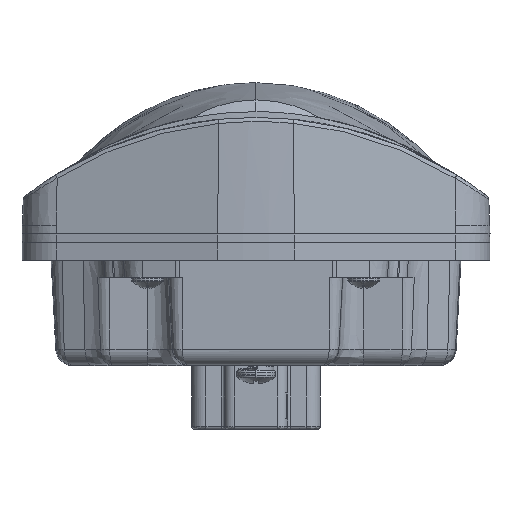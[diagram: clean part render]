
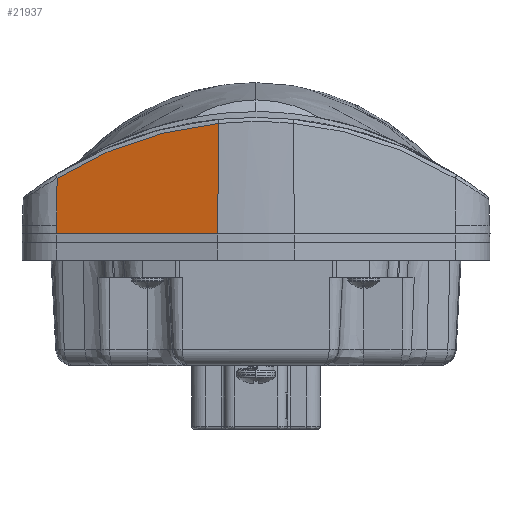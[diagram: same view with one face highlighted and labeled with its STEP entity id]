
A CAD part, front view. The second image highlights one B-rep face of the part: STEP entity #21937.
In plain terms, the highlighted planar face has unit normal (-0.242, -0.97, 0.035).
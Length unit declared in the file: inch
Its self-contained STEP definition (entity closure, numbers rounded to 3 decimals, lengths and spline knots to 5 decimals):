
#940 = CARTESIAN_POINT ( 'NONE',  ( -1.06879, -2.17543, 0.49437 ) ) ;
#1234 = VERTEX_POINT ( 'NONE', #25734 ) ;
#2233 = CARTESIAN_POINT ( 'NONE',  ( -0.69388, -2.26427, 0.63018 ) ) ;
#2349 = B_SPLINE_CURVE_WITH_KNOTS ( 'NONE', 3,
 ( #8865, #68769, #39155, #101686 ),
 .UNSPECIFIED., .F., .F.,
 ( 4, 4 ),
 ( 0., 0.01953 ),
 .UNSPECIFIED. ) ;
#8498 = ORIENTED_EDGE ( 'NONE', *, *, #106932, .F. ) ;
#8523 = ORIENTED_EDGE ( 'NONE', *, *, #91245, .F. ) ;
#8865 = CARTESIAN_POINT ( 'NONE',  ( -0.26144, -2.36957, 0.70835 ) ) ;
#10360 = CARTESIAN_POINT ( 'NONE',  ( -1.1524, -2.15594, 0.45516 ) ) ;
#12244 = DIRECTION ( 'NONE',  ( -0.97, 0.243, 0. ) ) ;
#13692 = LINE ( 'NONE', #107813, #65631 ) ;
#15079 = VERTEX_POINT ( 'NONE', #19647 ) ;
#19115 = CARTESIAN_POINT ( 'NONE',  ( -1.10901, -2.16604, 0.47595 ) ) ;
#19647 = CARTESIAN_POINT ( 'NONE',  ( -0.26582, -2.39613, -0.06 ) ) ;
#21723 = CARTESIAN_POINT ( 'NONE',  ( -0.99814, -2.192, 0.52473 ) ) ;
#21937 = ADVANCED_FACE ( 'NONE', ( #22293 ), #75417, .F. ) ;
#22293 = FACE_OUTER_BOUND ( 'NONE', #25933, .T. ) ;
#23636 = CARTESIAN_POINT ( 'NONE',  ( 0.77295, -2.65366, 0. ) ) ;
#24385 = CARTESIAN_POINT ( 'NONE',  ( -0.85447, -2.22596, 0.57906 ) ) ;
#25066 = CARTESIAN_POINT ( 'NONE',  ( -0.88931, -2.21769, 0.56677 ) ) ;
#25734 = CARTESIAN_POINT ( 'NONE',  ( -1.38606, -2.11391, 0. ) ) ;
#25933 = EDGE_LOOP ( 'NONE', ( #114499, #93777, #8498, #42972, #8523 ) ) ;
#26187 = VERTEX_POINT ( 'NONE', #80361 ) ;
#31851 = CARTESIAN_POINT ( 'NONE',  ( -1.0318, -2.1841, 0.51057 ) ) ;
#33164 = CARTESIAN_POINT ( 'NONE',  ( -0.87485, -2.22112, 0.57194 ) ) ;
#33838 = CARTESIAN_POINT ( 'NONE',  ( -0.91769, -2.21097, 0.55634 ) ) ;
#34485 = CARTESIAN_POINT ( 'NONE',  ( -0.78713, -2.24196, 0.60222 ) ) ;
#39155 = CARTESIAN_POINT ( 'NONE',  ( -0.26436, -2.38728, 0.19612 ) ) ;
#42602 = CARTESIAN_POINT ( 'NONE',  ( -0.41661, -2.33147, 0.68895 ) ) ;
#42972 = ORIENTED_EDGE ( 'NONE', *, *, #116640, .F. ) ;
#43236 = CARTESIAN_POINT ( 'NONE',  ( -0.85991, -2.22467, 0.57718 ) ) ;
#44579 = CARTESIAN_POINT ( 'NONE',  ( -0.92893, -2.20832, 0.55211 ) ) ;
#46071 = AXIS2_PLACEMENT_3D ( 'NONE', #23636, #86146, #12244 ) ;
#47254 = VERTEX_POINT ( 'NONE', #48446 ) ;
#48446 = CARTESIAN_POINT ( 'NONE',  ( -1.3833, -2.10284, 0.3268 ) ) ;
#50729 = CARTESIAN_POINT ( 'NONE',  ( -1.35526, -2.10922, 0.34416 ) ) ;
#50963 = CARTESIAN_POINT ( 'NONE',  ( 0.77245, -2.65569, -0.06 ) ) ;
#52729 = CARTESIAN_POINT ( 'NONE',  ( -0.95402, -2.20239, 0.54245 ) ) ;
#54029 = CARTESIAN_POINT ( 'NONE',  ( -0.26981, -2.3675, 0.70751 ) ) ;
#54701 = CARTESIAN_POINT ( 'NONE',  ( -0.86399, -2.2237, 0.57576 ) ) ;
#55376 = CARTESIAN_POINT ( 'NONE',  ( -0.49374, -2.31267, 0.67553 ) ) ;
#59639 = CARTESIAN_POINT ( 'NONE',  ( -1.38606, -2.11391, 0. ) ) ;
#60173 = CARTESIAN_POINT ( 'NONE',  ( -1.04988, -2.17986, 0.50273 ) ) ;
#61501 = CARTESIAN_POINT ( 'NONE',  ( -1.22317, -2.13955, 0.41907 ) ) ;
#62790 = CARTESIAN_POINT ( 'NONE',  ( -0.98257, -2.19566, 0.53109 ) ) ;
#65451 = CARTESIAN_POINT ( 'NONE',  ( -0.35088, -2.34756, 0.69841 ) ) ;
#65631 = VECTOR ( 'NONE', #85624, 39.37008 ) ;
#66132 = CARTESIAN_POINT ( 'NONE',  ( -0.89788, -2.21566, 0.56366 ) ) ;
#67625 = VECTOR ( 'NONE', #84482, 39.37008 ) ;
#68769 = CARTESIAN_POINT ( 'NONE',  ( -0.2629, -2.37842, 0.45223 ) ) ;
#69729 = VERTEX_POINT ( 'NONE', #113512 ) ;
#70245 = CARTESIAN_POINT ( 'NONE',  ( -1.37386, -2.10499, 0.33264 ) ) ;
#74195 = CARTESIAN_POINT ( 'NONE',  ( -0.90735, -2.21342, 0.56019 ) ) ;
#75417 = PLANE ( 'NONE',  #46071 ) ;
#75512 = CARTESIAN_POINT ( 'NONE',  ( -0.85311, -2.22629, 0.57953 ) ) ;
#77439 = B_SPLINE_CURVE_WITH_KNOTS ( 'NONE', 3,
 ( #82960, #70245, #50729, #101166, #123935, #112576, #122613, #61501, #102494, #111257, #10360, #103148, #19115, #93072, #940, #60173, #31851, #113873, #21723, #62790, #103804, #52729, #131366, #44579, #33838, #74195, #66132, #25066, #126567, #33164, #127230, #54701, #43236, #107124, #24385, #75512, #34485, #2233, #116505, #55376, #42602, #65451, #94366, #54029, #84242 ),
 .UNSPECIFIED., .F., .F.,
 ( 4, 1, 1, 1, 1, 1, 1, 1, 1, 1, 1, 1, 1, 1, 1, 1, 1, 1, 1, 1, 1, 1, 1, 1, 1, 1, 1, 1, 1, 1, 1, 1, 1, 1, 1, 1, 1, 1, 1, 1, 1, 1, 4 ),
 ( 0., 0.02769, 0.05458, 0.08066, 0.10595, 0.13043, 0.15411, 0.17698, 0.19906, 0.22033, 0.24079, 0.26046, 0.27932, 0.29738, 0.31464, 0.33109, 0.34675, 0.36159, 0.37564, 0.38889, 0.40133, 0.41297, 0.4238, 0.43384, 0.44307, 0.4515, 0.45912, 0.46595, 0.47197, 0.47718, 0.4816, 0.48521, 0.48802, 0.49003, 0.49124, 0.49164, 0.66516, 0.7355, 0.81147, 0.86166, 0.93267, 0.97878, 1. ),
 .UNSPECIFIED. ) ;
#80361 = CARTESIAN_POINT ( 'NONE',  ( -0.26144, -2.36957, 0.70835 ) ) ;
#82960 = CARTESIAN_POINT ( 'NONE',  ( -1.3833, -2.10284, 0.3268 ) ) ;
#84242 = CARTESIAN_POINT ( 'NONE',  ( -0.26144, -2.36957, 0.70835 ) ) ;
#84482 = DIRECTION ( 'NONE',  ( -0.97, 0.243, 0. ) ) ;
#85624 = DIRECTION ( 'NONE',  ( 0.008, 0.034, 0.999 ) ) ;
#86146 = DIRECTION ( 'NONE',  ( 0.242, 0.97, -0.035 ) ) ;
#91245 = EDGE_CURVE ( 'NONE', #1234, #47254, #129000, .T. ) ;
#93072 = CARTESIAN_POINT ( 'NONE',  ( -1.0885, -2.17082, 0.48545 ) ) ;
#93777 = ORIENTED_EDGE ( 'NONE', *, *, #98660, .F. ) ;
#94366 = CARTESIAN_POINT ( 'NONE',  ( -0.29638, -2.36096, 0.70484 ) ) ;
#95965 = EDGE_CURVE ( 'NONE', #69729, #1234, #13692, .T. ) ;
#98660 = EDGE_CURVE ( 'NONE', #15079, #69729, #102727, .T. ) ;
#101166 = CARTESIAN_POINT ( 'NONE',  ( -1.3275, -2.11556, 0.36073 ) ) ;
#101686 = CARTESIAN_POINT ( 'NONE',  ( -0.26582, -2.39613, -0.06 ) ) ;
#102494 = CARTESIAN_POINT ( 'NONE',  ( -1.19884, -2.14517, 0.43179 ) ) ;
#102727 = LINE ( 'NONE', #50963, #67625 ) ;
#103148 = CARTESIAN_POINT ( 'NONE',  ( -1.13032, -2.16107, 0.46587 ) ) ;
#103804 = CARTESIAN_POINT ( 'NONE',  ( -0.96786, -2.19913, 0.53699 ) ) ;
#106932 = EDGE_CURVE ( 'NONE', #26187, #15079, #2349, .T. ) ;
#107124 = CARTESIAN_POINT ( 'NONE',  ( -0.85674, -2.22542, 0.57828 ) ) ;
#107813 = CARTESIAN_POINT ( 'NONE',  ( -1.38606, -2.11391, 0. ) ) ;
#111257 = CARTESIAN_POINT ( 'NONE',  ( -1.17525, -2.15064, 0.44381 ) ) ;
#112576 = CARTESIAN_POINT ( 'NONE',  ( -1.27397, -2.12784, 0.39145 ) ) ;
#113512 = CARTESIAN_POINT ( 'NONE',  ( -1.38657, -2.11594, -0.06 ) ) ;
#113873 = CARTESIAN_POINT ( 'NONE',  ( -1.01455, -2.18814, 0.51789 ) ) ;
#114499 = ORIENTED_EDGE ( 'NONE', *, *, #95965, .F. ) ;
#116505 = CARTESIAN_POINT ( 'NONE',  ( -0.57023, -2.29412, 0.65982 ) ) ;
#116640 = EDGE_CURVE ( 'NONE', #47254, #26187, #77439, .T. ) ;
#122613 = CARTESIAN_POINT ( 'NONE',  ( -1.24822, -2.13377, 0.40564 ) ) ;
#123935 = CARTESIAN_POINT ( 'NONE',  ( -1.30041, -2.12177, 0.3765 ) ) ;
#126567 = CARTESIAN_POINT ( 'NONE',  ( -0.88163, -2.21951, 0.56953 ) ) ;
#127230 = CARTESIAN_POINT ( 'NONE',  ( -0.86897, -2.22252, 0.57401 ) ) ;
#129000 = LINE ( 'NONE', #59639, #131508 ) ;
#131366 = CARTESIAN_POINT ( 'NONE',  ( -0.94103, -2.20546, 0.54749 ) ) ;
#131491 = DIRECTION ( 'NONE',  ( 0.008, 0.034, 0.999 ) ) ;
#131508 = VECTOR ( 'NONE', #131491, 39.37008 ) ;
